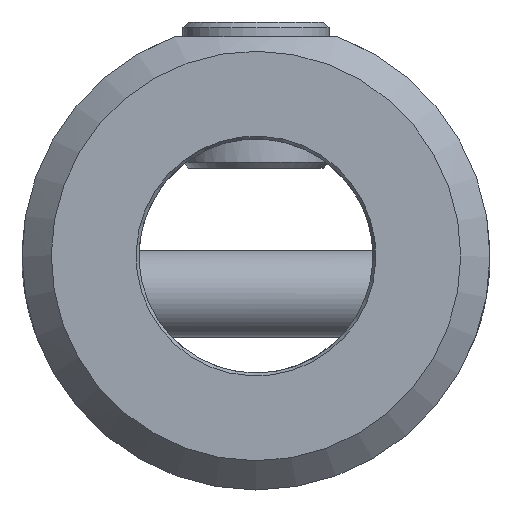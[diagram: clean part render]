
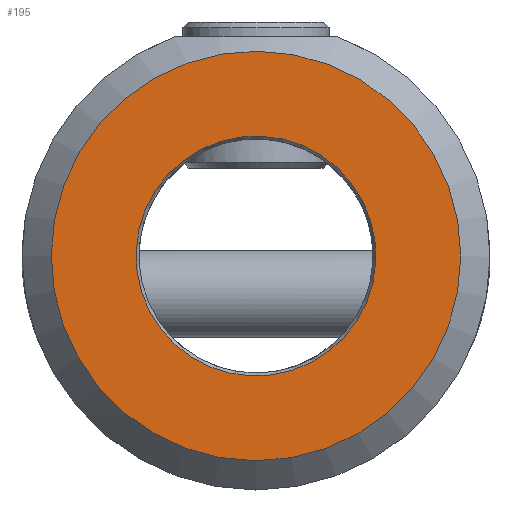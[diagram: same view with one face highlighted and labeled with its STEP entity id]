
A CAD part, left-side view. The second image highlights one B-rep face of the part: STEP entity #195.
In plain terms, the highlighted planar face has unit normal (-1, 0, 0).
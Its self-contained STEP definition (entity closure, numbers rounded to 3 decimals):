
#163=PLANE('',#900);
#195=ADVANCED_FACE('',(#299,#300),#163,.T.);
#299=FACE_BOUND('',#370,.T.);
#300=FACE_BOUND('',#371,.T.);
#370=EDGE_LOOP('',(#466));
#371=EDGE_LOOP('',(#467));
#466=ORIENTED_EDGE('',*,*,#748,.T.);
#467=ORIENTED_EDGE('',*,*,#749,.T.);
#668=VERTEX_POINT('',#1239);
#669=VERTEX_POINT('',#1241);
#748=EDGE_CURVE('',#668,#668,#849,.T.);
#749=EDGE_CURVE('',#669,#669,#850,.T.);
#849=CIRCLE('',#898,7.);
#850=CIRCLE('',#899,4.1);
#898=AXIS2_PLACEMENT_3D('',#1238,#1003,#1004);
#899=AXIS2_PLACEMENT_3D('',#1240,#1005,#1006);
#900=AXIS2_PLACEMENT_3D('',#1242,#1007,#1008);
#1003=DIRECTION('',(-1.,0.,0.));
#1004=DIRECTION('',(0.,-1.,0.));
#1005=DIRECTION('',(1.,0.,0.));
#1006=DIRECTION('',(0.,-0.999,-0.046));
#1007=DIRECTION('',(-1.,0.,0.));
#1008=DIRECTION('',(0.,1.,0.));
#1238=CARTESIAN_POINT('',(-100.,0.,0.));
#1239=CARTESIAN_POINT('',(-100.,-7.,0.));
#1240=CARTESIAN_POINT('',(-100.,0.,0.));
#1241=CARTESIAN_POINT('',(-100.,-4.096,-0.188));
#1242=CARTESIAN_POINT('',(-100.,0.,0.));
